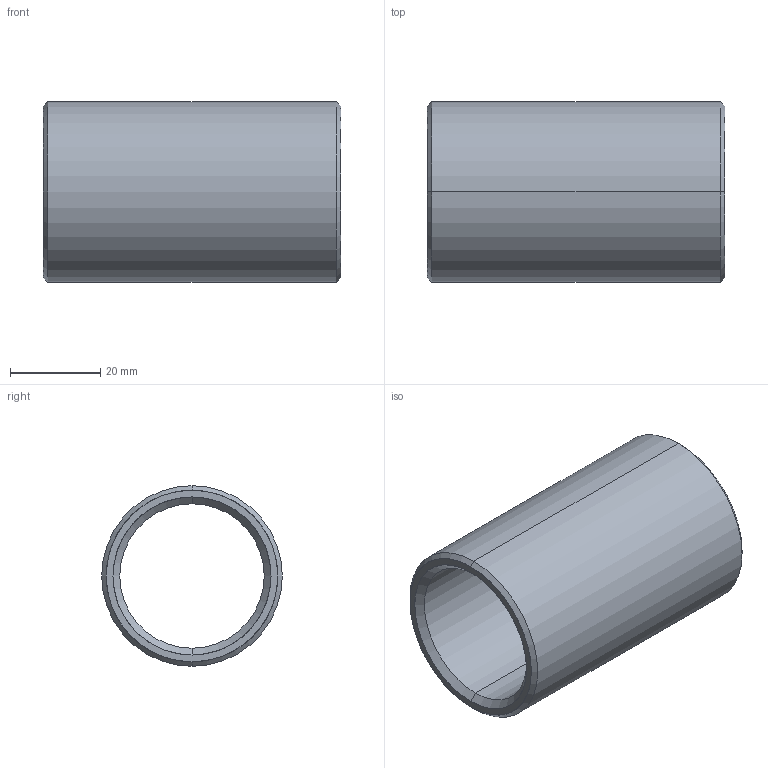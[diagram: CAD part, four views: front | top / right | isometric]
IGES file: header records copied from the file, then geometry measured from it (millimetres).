
Start section: START RECORD GO HERE.
Global section: file name: 352-32X66.igs; native system: DASSAULT SYSTEMES CATIA V5 R20 - www.3ds.com; preprocessor: CATIA Version 5 Release 20 ; author: Utente; organization: NB04-ASUS; date: 20210414.170049; units: millimetre
Bounding box: 66 x 40 x 40 mm (x, y, z)
Surface area: 15555.7 mm2 (no closed solid volume)
Topology: 0 solids, 0 shells, 14 faces, 88 edges, 88 vertices
Faces by surface type: revolution 12, plane 2
